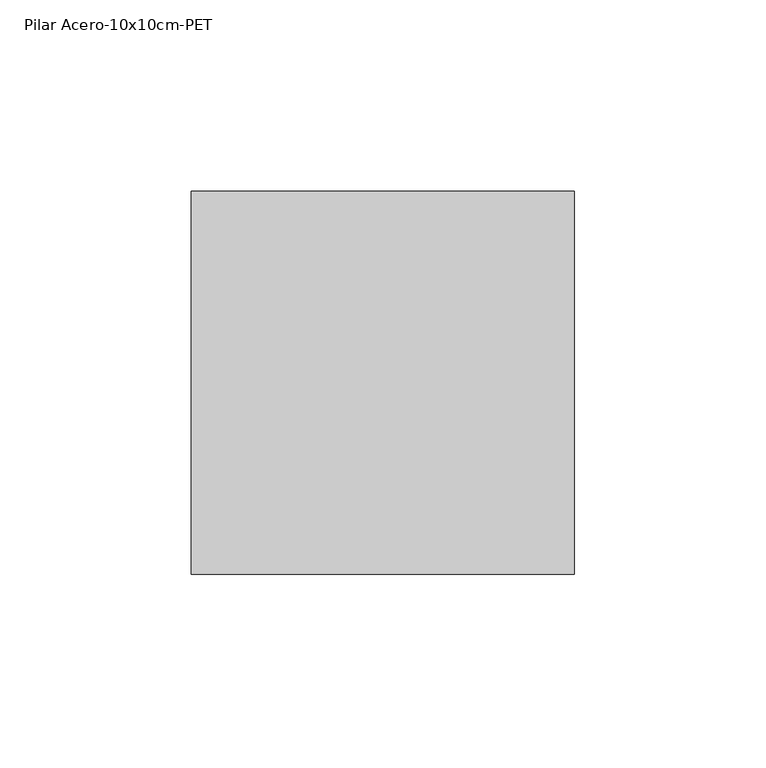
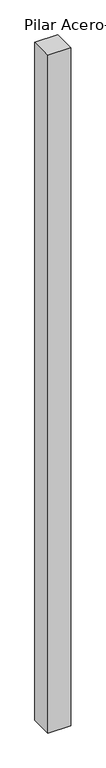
"""IFC4 building model written with IfcOpenShell, lengths in millimetres: column geometry, PIES-RECT-AC-PET : Pilar Acero-10x10cm-PET."""

from ifc_helpers import new_model, si_unit, frame, origin, place, context, project, spatial, polyline, outline, extrude, source, transform, mapped, element, save


def pilar_acero_10x10cm_pet_07589721(model_context):
    return source(origin(), model_context, "Body", "SweptSolid", [
        extrude(outline(polyline([(50.0, 50.0), (50.0, -50.0), (-50.0, -50.0), (-50.0, 50.0), (50.0, 50.0)])), frame((0.0, 0.0, -50.0), z_axis=(0.0, 0.0, 1.0), x_axis=(1.0, 0.0, 0.0)), (0.0, 0.0, 1.0), 3160.0),
    ])


if __name__ == "__main__":
    model = new_model("IFC4")
    model_context = context("Model", 3, world=origin())
    ifc_project = project(units=[si_unit("LENGTHUNIT", "METRE", prefix="MILLI")], contexts=[model_context])
    site = spatial("IfcSite", under=ifc_project)
    building = spatial("IfcBuilding", under=site)
    placement = place(None, origin())
    pilar_acero_10x10cm_pet_shape = pilar_acero_10x10cm_pet_07589721(model_context)
    element("IfcColumn", 1, ObjectType="PIES-RECT-AC-PET : Pilar Acero-10x10cm-PET", at=placement, inside=building, context=model_context, shape_type="MappedRepresentation", body=[
        mapped(pilar_acero_10x10cm_pet_shape, transform((0.0, 0.0, 0.0), x_axis=(1.0, 0.0, 0.0), y_axis=(0.0, 1.0, 0.0), z_axis=(0.0, 0.0, 1.0))),
    ])
    save(model, "model.ifc")
